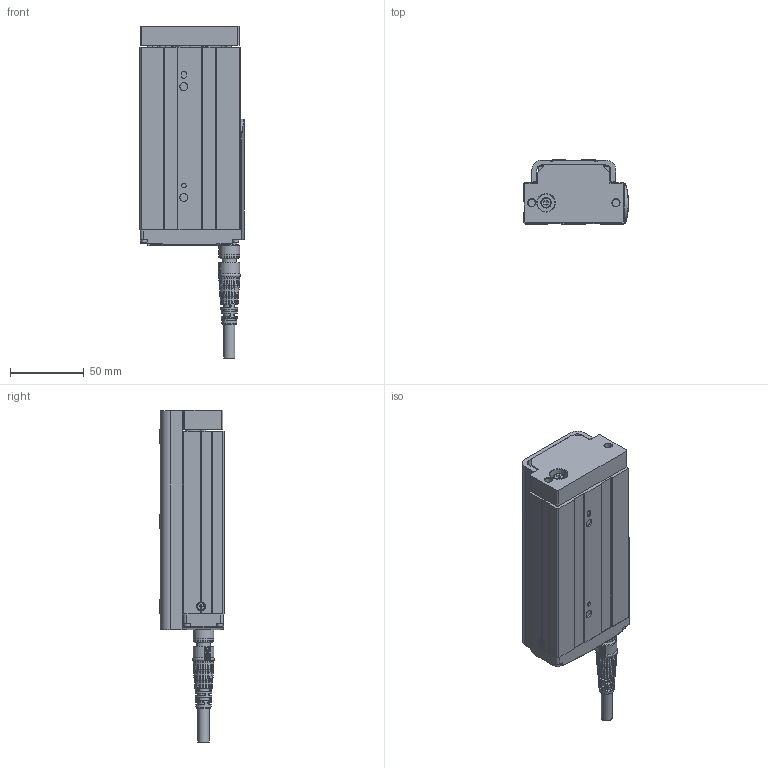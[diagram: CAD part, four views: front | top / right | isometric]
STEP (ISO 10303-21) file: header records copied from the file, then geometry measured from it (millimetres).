
FILE_DESCRIPTION(/* description */ ('STEP AP203'),/* implementation_level */ '2;1');
FILE_NAME(/* name */ 'D:\暫\2025.02.06 CSG 3D\CSG25\CSG25-S75.stp',/* time_stamp */ '2025-02-08T10:01:54+08:00',/* author */ ('T10033'),/* organization */ (''),/* preprocessor_version */ 'ST-DEVELOPER v18.1',/* originating_system */ 'Autodesk Inventor 2020',/* authorisation */ '');
FILE_SCHEMA (('CONFIG_CONTROL_DESIGN'));
Products named in the file (18): CSG25-50行程-180接頭-完整組合; 22035-000061(G4ªo¯]); countersunk flat head cross recess screw_iso_ISO 7046-1 - M2.5 x 4 - 
Z - 4N; ©T©wªO-·¥­­¾×ª
O4-M2¤ú; socket head cap screw_iso_ISO 4762 M2.5 x 6 - 6N; socket head cap screw_iso_ISO 4762 M2.5 x 8 - 8N; ¶ì½¦ºÝ»-L¼Ë¦¡
(TOYO); socket head cap screw_iso_ISO 4762 M2 x 12 - 12N; M12 -14PIN  ªOºÝ-²Ä¤@ºØ
³W®æ; CSG25-50¥»Åé3ª©-ªo¤Õ
½Õ¾ã¨¤«×; CSG25-Carriage-newtype; Solid1-2; M12-14PIN 線端180度接頭-05中繼線_
MIR; 12003-000221-­×§ï; 22024-000496; CNS 3932 - M 4 x 0.7 x 12; socket head cap screw_iso_ISO 4762 M2.5 x 5 - 5N; CNS 4558 - M5 x 0.8 x 12
Assembly tree (29 placements, depth 2):
  CSG25-50行程-180接頭-完整組合
    22035-000061(G4ªo¯])
    socket head cap screw_iso_ISO 4762 M2.5 x 8 - 8N  x8
    countersunk flat head cross recess screw_iso_ISO 7046-1 - M2.5 x 4 - 
Z - 4N
    ©T©wªO-·¥­­¾×ª
O4-M2¤ú
    socket head cap screw_iso_ISO 4762 M2.5 x 6 - 6N  x2
    ¶ì½¦ºÝ»-L¼Ë¦¡
(TOYO)
    socket head cap screw_iso_ISO 4762 M2 x 12 - 12N  x4
    M12 -14PIN  ªOºÝ-²Ä¤@ºØ
³W®æ
    CSG25-50¥»Åé3ª©-ªo¤Õ
½Õ¾ã¨¤«×
    CSG25-Carriage-newtype
    Solid1-2
    M12-14PIN 線端180度接頭-05中繼線_
MIR
    12003-000221-­×§ï
    22024-000496
    CNS 3932 - M 4 x 0.7 x 12
    socket head cap screw_iso_ISO 4762 M2.5 x 5 - 5N
    CNS 4558 - M5 x 0.8 x 12  x2
Bounding box: 71 x 43.5 x 224.6 mm (x, y, z)
Volume: 346155.1 mm3; surface area: 90651.6 mm2
Topology: 46 solids, 51 shells, 2836 faces, 7806 edges, 5197 vertices
Faces by surface type: plane 1349, bspline 656, cylinder 452, cone 286, torus 86, sphere 7
Full cylindrical faces by diameter (mm): 0.6 x14, 0.65 x14, 0.8 x2, 1 x14, 1.6 x4, 2 x6, 2.05 x3, 2.5 x13, 2.9 x2, 3 x3, 3.8 x4, 4 x1, 4.134 x8, 4.5 x11, 4.7 x1, 4.95 x1, 5 x5, 5.2 x1, 5.3 x2, 5.4 x4, 5.5 x4, 6 x3, 7 x1, 7.5 x1, 8 x1, 8.9 x1, 9 x12, 9.5 x2, 9.6 x1, 10 x6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
Entity records: 100213 total; most frequent: CARTESIAN_POINT 32972, ORIENTED_EDGE 14383, DIRECTION 12754, EDGE_CURVE 7192, VERTEX_POINT 4811, AXIS2_PLACEMENT_3D 4509, LINE 3736, VECTOR 3736
